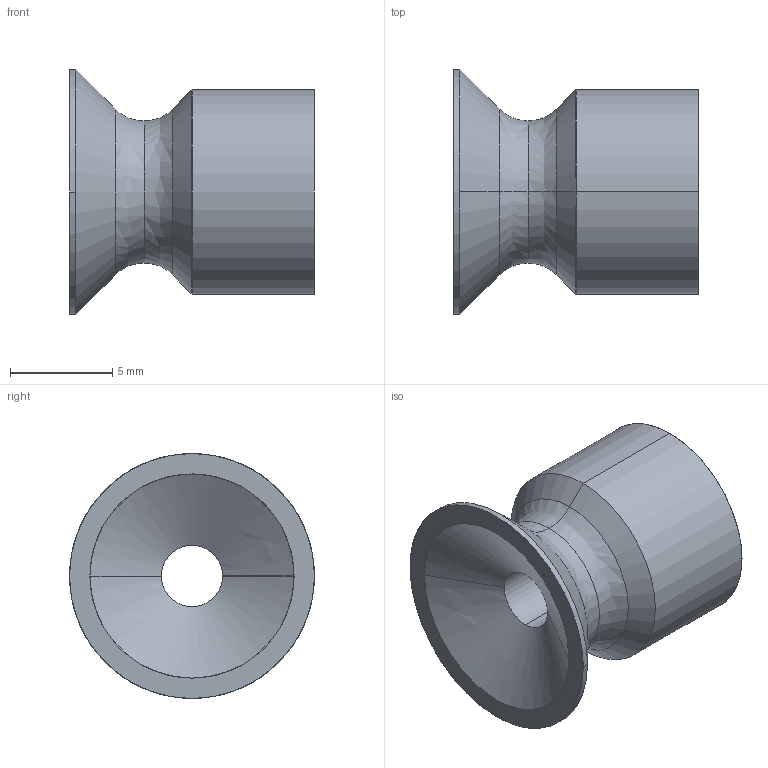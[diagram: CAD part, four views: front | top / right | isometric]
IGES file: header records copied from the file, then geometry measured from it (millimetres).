
Start section: SolidWorks IGES file using analytic representation for surfaces
Global section: file name: C:\Documents and Settings\CAD53\デスクトップ\現在データがないと思われるデータ\IGESデータ\210795.IGS; native system: SolidWorks 2006 by SolidWorks Corporation; preprocessor: SolidWorks 2006 by SolidWorks Corporation; author: CAD53; date: 071019.115532; units: millimetre
Bounding box: 12 x 12 x 12 mm (x, y, z)
Surface area: 764.1 mm2 (no closed solid volume)
Topology: 0 solids, 0 shells, 24 faces, 344 edges, 344 vertices
Faces by surface type: revolution 16, bspline 8
